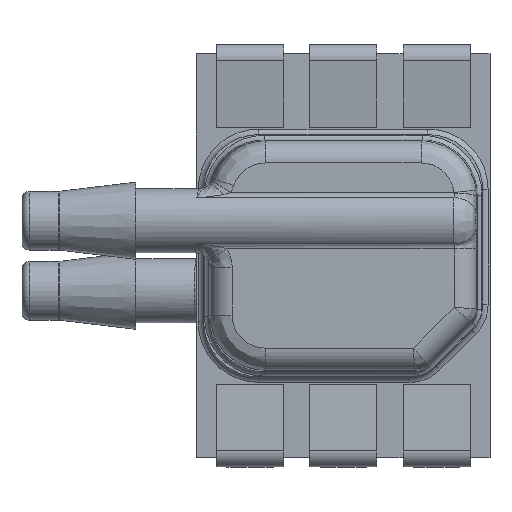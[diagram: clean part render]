
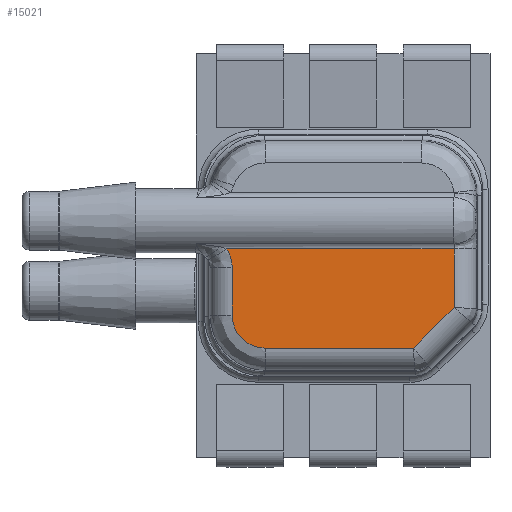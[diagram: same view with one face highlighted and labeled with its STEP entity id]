
A CAD part, top view. The second image highlights one B-rep face of the part: STEP entity #15021.
In plain terms, the highlighted planar face has unit normal (0, 0, 1).
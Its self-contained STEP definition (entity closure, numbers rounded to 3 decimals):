
#5132=DIRECTION('',(1.,0.,0.));
#5133=VECTOR('',#5132,6.182);
#5134=CARTESIAN_POINT('',(24.841,-32.82,2.56));
#5135=LINE('',#5134,#5133);
#5136=DIRECTION('',(0.,1.,0.));
#5137=VECTOR('',#5136,1.59);
#5138=CARTESIAN_POINT('',(31.023,-34.41,2.56));
#5139=LINE('',#5138,#5137);
#5140=DIRECTION('',(0.707,0.707,0.));
#5141=VECTOR('',#5140,1.573);
#5142=CARTESIAN_POINT('',(29.91,-35.523,2.56));
#5143=LINE('',#5142,#5141);
#5144=DIRECTION('',(-1.,0.,0.));
#5145=VECTOR('',#5144,4.033);
#5146=CARTESIAN_POINT('',(29.91,-35.523,2.56));
#5147=LINE('',#5146,#5145);
#5148=CARTESIAN_POINT('',(25.877,-35.523,2.56));
#5149=CARTESIAN_POINT('',(25.83,-35.523,2.56));
#5150=CARTESIAN_POINT('',(25.737,-35.516,2.56));
#5151=CARTESIAN_POINT('',(25.598,-35.483,2.56));
#5152=CARTESIAN_POINT('',(25.467,-35.428,2.56));
#5153=CARTESIAN_POINT('',(25.346,-35.354,2.56));
#5154=CARTESIAN_POINT('',(25.238,-35.262,2.56));
#5155=CARTESIAN_POINT('',(25.146,-35.154,2.56));
#5156=CARTESIAN_POINT('',(25.072,-35.033,2.56));
#5157=CARTESIAN_POINT('',(25.017,-34.902,2.56));
#5158=CARTESIAN_POINT('',(24.984,-34.763,2.56));
#5159=CARTESIAN_POINT('',(24.977,-34.67,2.56));
#5160=CARTESIAN_POINT('',(24.977,-34.623,2.56));
#5162=DIRECTION('',(0.,1.,0.));
#5163=VECTOR('',#5162,1.298);
#5164=CARTESIAN_POINT('',(24.977,-34.623,2.56));
#5165=LINE('',#5164,#5163);
#5166=CARTESIAN_POINT('',(24.977,-33.325,2.56));
#5167=CARTESIAN_POINT('',(24.977,-33.28,2.56));
#5168=CARTESIAN_POINT('',(24.971,-33.193,2.56));
#5169=CARTESIAN_POINT('',(24.945,-33.063,2.56));
#5170=CARTESIAN_POINT('',(24.902,-32.937,2.56));
#5171=CARTESIAN_POINT('',(24.863,-32.858,2.56));
#5172=CARTESIAN_POINT('',(24.841,-32.82,2.56));
#5828=CARTESIAN_POINT('',(24.841,-32.82,2.56));
#5829=CARTESIAN_POINT('',(31.023,-32.82,2.56));
#5830=VERTEX_POINT('',#5828);
#5831=VERTEX_POINT('',#5829);
#5839=CARTESIAN_POINT('',(29.91,-35.523,2.56));
#5840=CARTESIAN_POINT('',(25.877,-35.523,2.56));
#5841=VERTEX_POINT('',#5839);
#5842=VERTEX_POINT('',#5840);
#5844=VERTEX_POINT('',#5160);
#5845=CARTESIAN_POINT('',(24.977,-33.325,2.56));
#5846=VERTEX_POINT('',#5845);
#5886=CARTESIAN_POINT('',(31.023,-34.41,2.56));
#5887=VERTEX_POINT('',#5886);
#15002=CARTESIAN_POINT('',(28.,-33.,2.56));
#15003=DIRECTION('',(0.,0.,1.));
#15004=DIRECTION('',(-1.,0.,0.));
#15005=AXIS2_PLACEMENT_3D('',#15002,#15003,#15004);
#15006=PLANE('',#15005);
#15007=ORIENTED_EDGE('',*,*,#14792,.T.);
#15008=ORIENTED_EDGE('',*,*,#14993,.F.);
#15010=ORIENTED_EDGE('',*,*,#15009,.F.);
#15012=ORIENTED_EDGE('',*,*,#15011,.T.);
#15014=ORIENTED_EDGE('',*,*,#15013,.T.);
#15016=ORIENTED_EDGE('',*,*,#15015,.T.);
#15018=ORIENTED_EDGE('',*,*,#15017,.T.);
#15019=EDGE_LOOP('',(#15007,#15008,#15010,#15012,#15014,#15016,#15018));
#15020=FACE_OUTER_BOUND('',#15019,.F.);
#15021=ADVANCED_FACE('',(#15020),#15006,.T.);
#5161=B_SPLINE_CURVE_WITH_KNOTS('',3,(#5148,#5149,#5150,#5151,#5152,#5153,#5154,
#5155,#5156,#5157,#5158,#5159,#5160),.UNSPECIFIED.,.F.,.F.,(4,1,1,1,1,1,1,1,1,1,
4),(0.,0.1,0.2,0.3,0.4,0.5,0.6,0.7,0.8,0.9,1.),
.UNSPECIFIED.);
#5173=B_SPLINE_CURVE_WITH_KNOTS('',3,(#5166,#5167,#5168,#5169,#5170,#5171,
#5172),.UNSPECIFIED.,.F.,.F.,(4,1,1,1,4),(0.,0.25,0.5,0.75,1.),
.UNSPECIFIED.);
#14792=EDGE_CURVE('',#5830,#5831,#5135,.T.);
#14993=EDGE_CURVE('',#5887,#5831,#5139,.T.);
#15009=EDGE_CURVE('',#5841,#5887,#5143,.T.);
#15011=EDGE_CURVE('',#5841,#5842,#5147,.T.);
#15013=EDGE_CURVE('',#5842,#5844,#5161,.T.);
#15015=EDGE_CURVE('',#5844,#5846,#5165,.T.);
#15017=EDGE_CURVE('',#5846,#5830,#5173,.T.);
